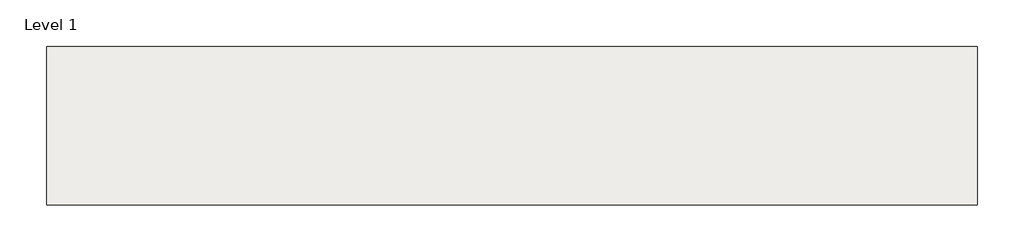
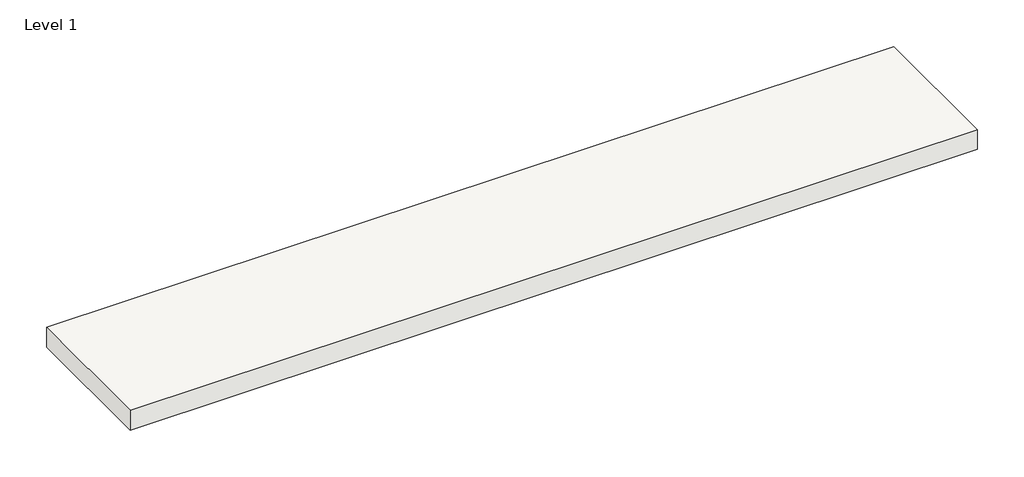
# One storey, incomplete: 1 slab.
"""IFC4 building model written with IfcOpenShell, lengths in millimetres."""

from ifc_helpers import new_model, si_unit, frame, origin, place, context, project, spatial, polyline, outline, extrude, element, save

model = new_model("IFC4")

# Units and contexts
model_context = context("Model", 3, world=origin())
ifc_project = project(units=[si_unit("LENGTHUNIT", "METRE", prefix="MILLI")], contexts=[model_context])

# Site, building, storey
site = spatial("IfcSite", under=ifc_project)
building = spatial("IfcBuilding", under=site)
storey = spatial("IfcBuildingStorey", under=building, Name="Level 1", Elevation=0.0)

# Slab
placement = place(None, origin())
element("IfcSlab", 1, ObjectType="Generic - 12\"", at=placement, inside=storey, context=model_context, shape_type="SweptSolid", body=[
    extrude(outline(polyline([(-6548.4242006, 14637.2598675), (-6548.4242006, 12537.2598675), (-18848.4242006, 12537.2598675), (-18848.4242006, 14637.2598675), (-6548.4242006, 14637.2598675)])), frame((0.0, 0.0, -304.8), z_axis=(0.0, 0.0, 1.0), x_axis=(1.0, 0.0, 0.0)), (0.0, 0.0, 1.0), 304.8),
])

save(model, "model.ifc")
